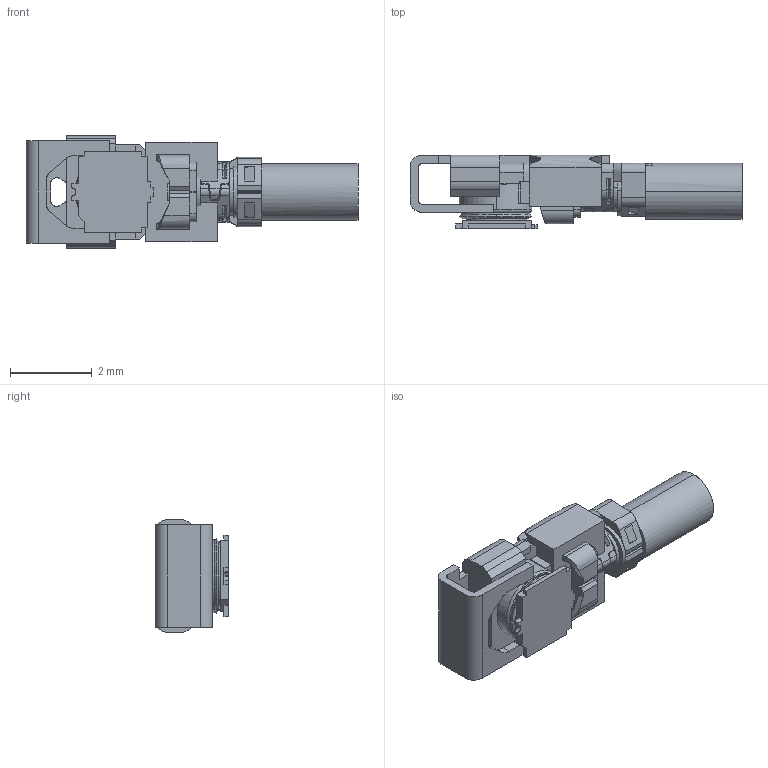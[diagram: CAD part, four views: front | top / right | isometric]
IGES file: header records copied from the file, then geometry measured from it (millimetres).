
Start section: SolidWorks IGES file using analytic representation for surfaces
Global section: file name: 138HC:\3dwork\watanabe\20231005_WEB 3D\採弌\WEB梡3D儌僨儖\MHF 4L LK\20632-001R-37+3615-000x+20449-001E-xxC MATING (UNLOCK) IGES R1R4R5 ALL.IGS; native system: SolidWorks 2023; preprocessor: SolidWorks 2023; author: E1480; date: 231108.141548; units: millimetre
Bounding box: 8.12 x 1.8 x 2.75 mm (x, y, z)
Surface area: 77.9 mm2 (no closed solid volume)
Topology: 0 solids, 0 shells, 349 faces, 2482 edges, 2482 vertices
Faces by surface type: bspline 240, revolution 109
